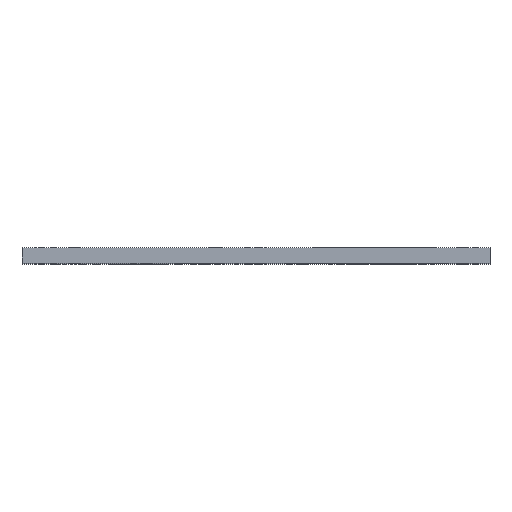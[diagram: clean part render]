
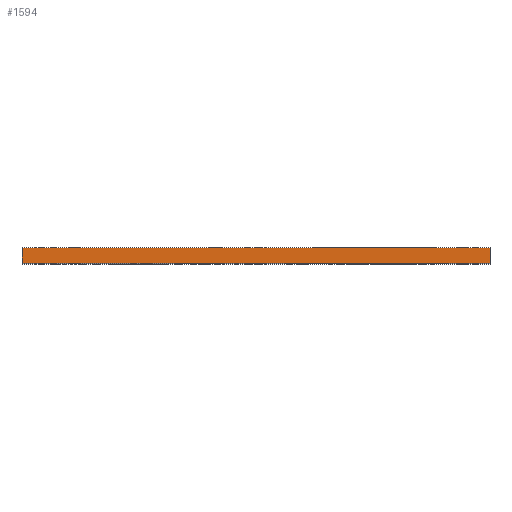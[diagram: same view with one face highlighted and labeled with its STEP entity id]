
A CAD part, top view. The second image highlights one B-rep face of the part: STEP entity #1594.
In plain terms, the highlighted planar face has unit normal (0, 0, 1).
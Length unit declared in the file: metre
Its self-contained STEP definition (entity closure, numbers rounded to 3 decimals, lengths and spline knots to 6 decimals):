
#70=LINE('',#2438,#162);
#105=LINE('',#2579,#197);
#120=LINE('',#2697,#212);
#122=LINE('',#2700,#214);
#162=VECTOR('',#1967,1.);
#197=VECTOR('',#2074,1.);
#212=VECTOR('',#2179,1.);
#214=VECTOR('',#2183,1.);
#412=ORIENTED_EDGE('',*,*,#741,.T.);
#413=ORIENTED_EDGE('',*,*,#802,.F.);
#414=ORIENTED_EDGE('',*,*,#671,.F.);
#415=ORIENTED_EDGE('',*,*,#800,.T.);
#671=EDGE_CURVE('',#867,#868,#70,.T.);
#741=EDGE_CURVE('',#935,#937,#105,.T.);
#800=EDGE_CURVE('',#867,#935,#120,.T.);
#802=EDGE_CURVE('',#868,#937,#122,.T.);
#867=VERTEX_POINT('',#2437);
#868=VERTEX_POINT('',#2439);
#935=VERTEX_POINT('',#2574);
#937=VERTEX_POINT('',#2578);
#1205=EDGE_LOOP('',(#412,#413,#414,#415));
#1433=FACE_BOUND('',#1205,.T.);
#1559=PLANE('',#1828);
#1594=ADVANCED_FACE('',(#1433),#1559,.F.);
#1828=AXIS2_PLACEMENT_3D('',#2699,#2181,#2182);
#1967=DIRECTION('',(1.,0.,0.));
#2074=DIRECTION('',(1.,0.,0.));
#2179=DIRECTION('',(0.,-1.,0.));
#2181=DIRECTION('',(0.,0.,-1.));
#2182=DIRECTION('',(-1.,0.,0.));
#2183=DIRECTION('',(0.,-1.,0.));
#2437=CARTESIAN_POINT('',(-0.161009,0.004,0.016));
#2438=CARTESIAN_POINT('',(-0.161009,0.004,0.016));
#2439=CARTESIAN_POINT('',(-0.038009,0.004,0.016));
#2574=CARTESIAN_POINT('',(-0.161009,0.,0.016));
#2578=CARTESIAN_POINT('',(-0.038009,0.,0.016));
#2579=CARTESIAN_POINT('',(-0.038009,0.,0.016));
#2697=CARTESIAN_POINT('',(-0.161009,0.004,0.016));
#2699=CARTESIAN_POINT('',(-0.038009,0.004,0.016));
#2700=CARTESIAN_POINT('',(-0.038009,0.004,0.016));
